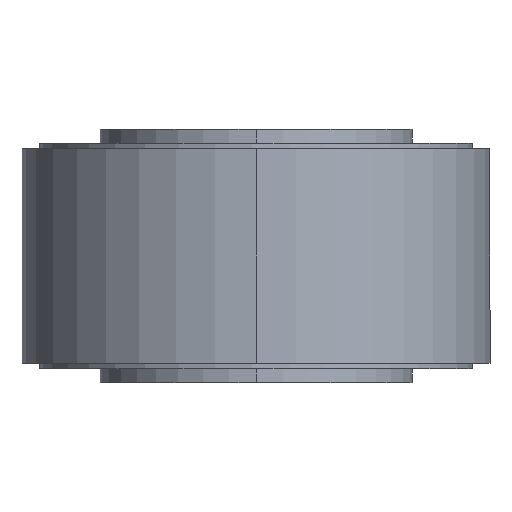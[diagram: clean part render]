
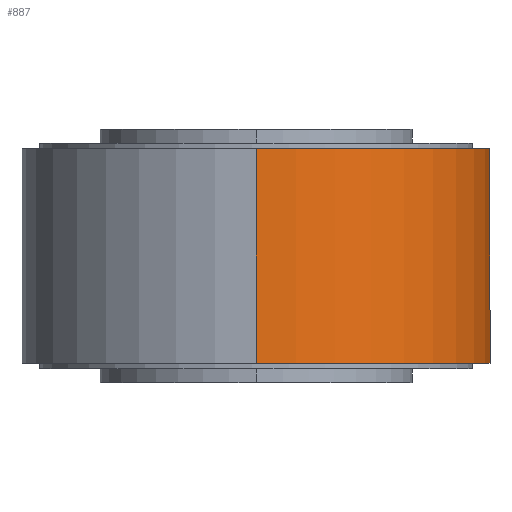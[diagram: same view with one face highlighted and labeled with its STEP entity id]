
A CAD part, left-side view. The second image highlights one B-rep face of the part: STEP entity #887.
In plain terms, the highlighted cylindrical face has radius 67.5 mm (diameter 135 mm), a partial arc.
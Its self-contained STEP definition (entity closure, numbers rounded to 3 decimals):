
#53 = EDGE_CURVE ( 'NONE', #1002, #1441, #1386, .T. ) ;
#56 = VERTEX_POINT ( 'NONE', #1941 ) ;
#99 = DIRECTION ( 'NONE',  ( 0., 0., 1. ) ) ;
#158 = EDGE_CURVE ( 'NONE', #501, #56, #1725, .T. ) ;
#169 = DIRECTION ( 'NONE',  ( 0., 0., 1. ) ) ;
#345 = ORIENTED_EDGE ( 'NONE', *, *, #158, .T. ) ;
#371 = CARTESIAN_POINT ( 'NONE',  ( 108.394, -79.202, 31. ) ) ;
#501 = VERTEX_POINT ( 'NONE', #1270 ) ;
#682 = DIRECTION ( 'NONE',  ( 1., 0., 0. ) ) ;
#775 = FACE_OUTER_BOUND ( 'NONE', #1444, .T. ) ;
#854 = EDGE_CURVE ( 'NONE', #501, #1002, #1184, .T. ) ;
#887 = ADVANCED_FACE ( 'NONE', ( #775 ), #1407, .T. ) ;
#928 = DIRECTION ( 'NONE',  ( -1., 0., 0. ) ) ;
#939 = AXIS2_PLACEMENT_3D ( 'NONE', #1546, #1860, #928 ) ;
#968 = VECTOR ( 'NONE', #1610, 1000. ) ;
#985 = CARTESIAN_POINT ( 'NONE',  ( 67.5, -25.5, -31. ) ) ;
#1002 = VERTEX_POINT ( 'NONE', #371 ) ;
#1184 = CIRCLE ( 'NONE', #1593, 67.5 ) ;
#1191 = AXIS2_PLACEMENT_3D ( 'NONE', #985, #99, #682 ) ;
#1224 = DIRECTION ( 'NONE',  ( 1., 0., 0. ) ) ;
#1251 = CARTESIAN_POINT ( 'NONE',  ( 108.394, -79.202, -31. ) ) ;
#1270 = CARTESIAN_POINT ( 'NONE',  ( 0., -25.5, 31. ) ) ;
#1296 = DIRECTION ( 'NONE',  ( 0., 0., -1. ) ) ;
#1303 = CARTESIAN_POINT ( 'NONE',  ( 108.394, -79.202, 32.5 ) ) ;
#1386 = LINE ( 'NONE', #1303, #968 ) ;
#1407 = CYLINDRICAL_SURFACE ( 'NONE', #939, 67.5 ) ;
#1437 = CIRCLE ( 'NONE', #1191, 67.5 ) ;
#1441 = VERTEX_POINT ( 'NONE', #1251 ) ;
#1444 = EDGE_LOOP ( 'NONE', ( #1908, #345, #1894, #1746 ) ) ;
#1514 = CARTESIAN_POINT ( 'NONE',  ( 0., -25.5, 32.5 ) ) ;
#1546 = CARTESIAN_POINT ( 'NONE',  ( 67.5, -25.5, 32.5 ) ) ;
#1593 = AXIS2_PLACEMENT_3D ( 'NONE', #1705, #169, #1224 ) ;
#1610 = DIRECTION ( 'NONE',  ( 0., 0., -1. ) ) ;
#1647 = VECTOR ( 'NONE', #1296, 1000. ) ;
#1663 = EDGE_CURVE ( 'NONE', #56, #1441, #1437, .T. ) ;
#1705 = CARTESIAN_POINT ( 'NONE',  ( 67.5, -25.5, 31. ) ) ;
#1725 = LINE ( 'NONE', #1514, #1647 ) ;
#1746 = ORIENTED_EDGE ( 'NONE', *, *, #53, .F. ) ;
#1860 = DIRECTION ( 'NONE',  ( 0., 0., -1. ) ) ;
#1894 = ORIENTED_EDGE ( 'NONE', *, *, #1663, .T. ) ;
#1908 = ORIENTED_EDGE ( 'NONE', *, *, #854, .F. ) ;
#1941 = CARTESIAN_POINT ( 'NONE',  ( 0., -25.5, -31. ) ) ;
